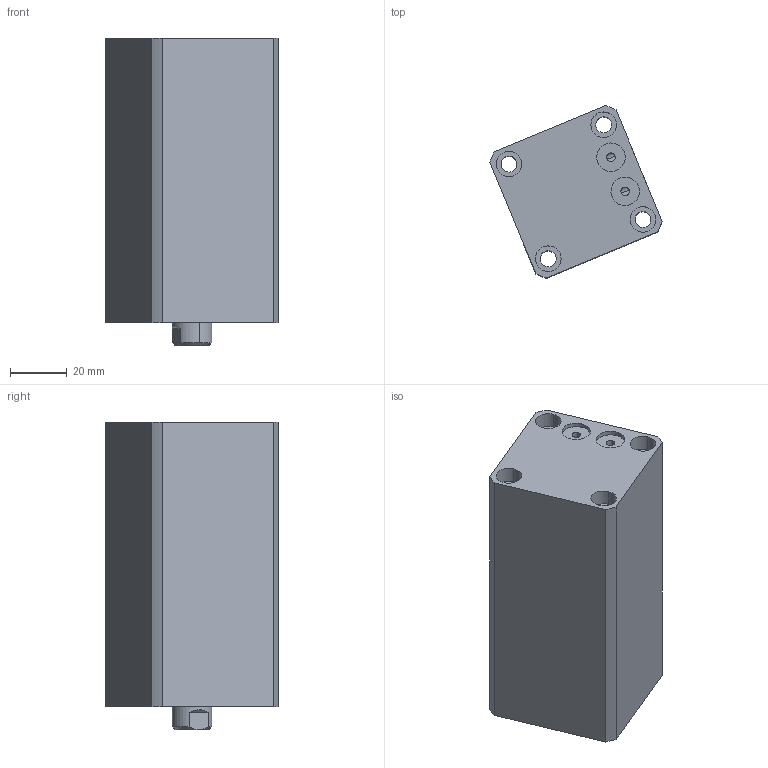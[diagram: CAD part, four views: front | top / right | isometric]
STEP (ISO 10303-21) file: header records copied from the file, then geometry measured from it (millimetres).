
FILE_DESCRIPTION (( 'STEP AP214' ), '1' );
FILE_NAME ('chtb-sdmb25x55n_asm.STEP', '2018-05-24T01:38:44', ( 'Windows' ), ( 'Microsoft' ), 'SwSTEP 2.0', 'SolidWorks 2015', '' );
FILE_SCHEMA (( 'AUTOMOTIVE_DESIGN' ));
Length unit declared in the file: millimetre
Products named in the file (4): CHTB-SDMB25X55NHSG; CHTB-SDMB25X55NBT; CHTB-25QG; chtb-sdmb25x55n_asm
Assembly tree (3 placements, depth 2):
  chtb-sdmb25x55n_asm
    CHTB-25QG
    CHTB-SDMB25X55NBT
    CHTB-SDMB25X55NHSG
Bounding box: 60.55 x 60.55 x 108 mm (x, y, z)
Volume: 196332.2 mm3; surface area: 51131.4 mm2
Topology: 3 solids, 3 shells, 142 faces, 379 edges, 257 vertices
Faces by surface type: cylinder 89, plane 34, bspline 10, cone 9
Entity records: 8024 total; most frequent: CARTESIAN_POINT 4397, ORIENTED_EDGE 746, DIRECTION 661, EDGE_CURVE 373, AXIS2_PLACEMENT_3D 272, VERTEX_POINT 257, EDGE_LOOP 180, ADVANCED_FACE 142
